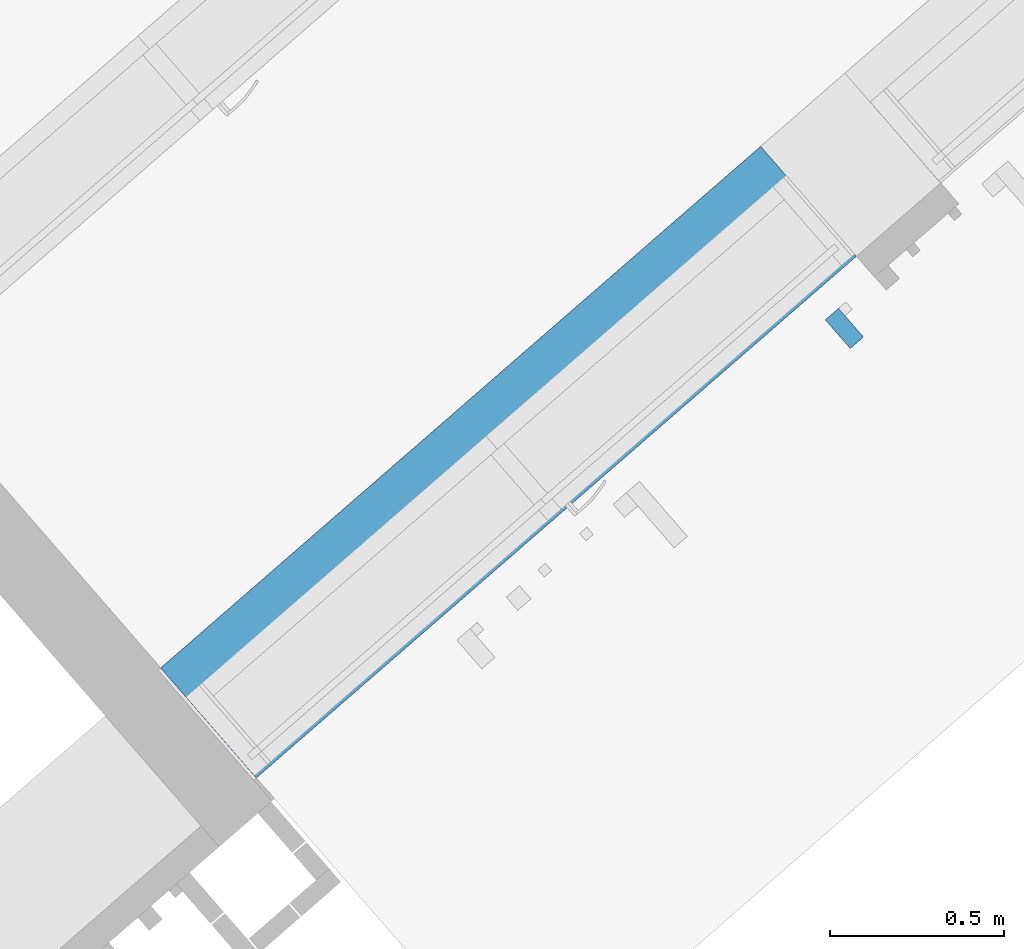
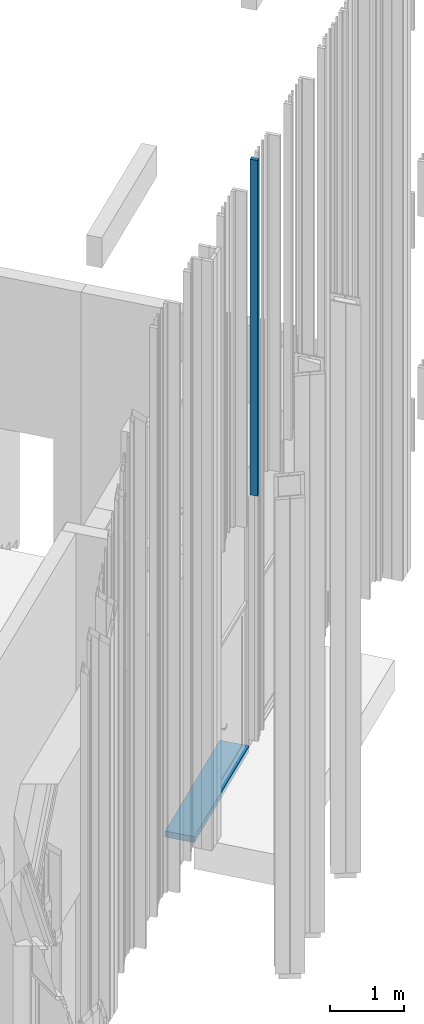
# One storey, part 204 of 390: 2 walls.
"""IFC2X3 building model written with IfcOpenShell, lengths in millimetres."""

from ifc_helpers import new_model, entity, si_unit, converted_unit, derived_unit, money_unit, direction, frame, origin_with_axes, place, context, subcontext, project, spatial, faceted_brep, material, material_list, type_object, element, save


model = new_model("IFC2X3")

# Units and contexts
model_context = context("Model", 3, precision=1e-05, world=origin_with_axes(), true_north=direction((0.0, 1.0)))
body_context = subcontext(model_context, "Body", "Model", "MODEL_VIEW")
ifc_project = project(units=[si_unit("LENGTHUNIT", "METRE", prefix="MILLI"), si_unit("AREAUNIT", "SQUARE_METRE"), si_unit("VOLUMEUNIT", "CUBIC_METRE"), converted_unit("PLANEANGLEUNIT", "DEGREE", entity("IfcPlaneAngleMeasure", 0.0174532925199), si_unit("PLANEANGLEUNIT", "RADIAN"), dimensions=[0, 0, 0, 0, 0, 0, 0]), si_unit("SOLIDANGLEUNIT", "STERADIAN"), money_unit("EUR"), converted_unit("TIMEUNIT", "Year", entity("IfcTimeMeasure", 31556926.0), si_unit("TIMEUNIT", "SECOND"), dimensions=[0, 0, 1, 0, 0, 0, 0]), si_unit("MASSUNIT", "GRAM", prefix="KILO"), si_unit("THERMODYNAMICTEMPERATUREUNIT", "DEGREE_CELSIUS"), si_unit("LUMINOUSINTENSITYUNIT", "LUMEN"), si_unit("ENERGYUNIT", "JOULE", prefix="MEGA"), derived_unit("THERMALCONDUCTANCEUNIT", [(si_unit("POWERUNIT", "WATT"), 1), (si_unit("LENGTHUNIT", "METRE"), -1), (si_unit("THERMODYNAMICTEMPERATUREUNIT", "KELVIN"), -1)]), derived_unit("SPECIFICHEATCAPACITYUNIT", [(si_unit("ENERGYUNIT", "JOULE"), 1), (si_unit("MASSUNIT", "GRAM", prefix="KILO"), -1), (si_unit("THERMODYNAMICTEMPERATUREUNIT", "KELVIN"), -1)]), derived_unit("MASSDENSITYUNIT", [(si_unit("MASSUNIT", "GRAM", prefix="KILO"), 1), (si_unit("VOLUMEUNIT", "CUBIC_METRE"), -1)])], contexts=[model_context])

# Site, building, storey
site_placement = place(None, origin_with_axes())
site = spatial("IfcSite", under=ifc_project, at=site_placement, Name="Site", CompositionType="ELEMENT")
building_placement = place(site_placement, origin_with_axes())
building = spatial("IfcBuilding", under=site, at=building_placement, Name="Building", CompositionType="ELEMENT")
storey_placement = place(building_placement, origin_with_axes())
storey = spatial("IfcBuildingStorey", under=building, at=storey_placement, Name="1 korrus", CompositionType="ELEMENT", Elevation=0.0)

# Walls
ifc_material_1 = material(Name="Plaat - Sein")
ifc_material_2 = material(Name="Soojustus - Plastik Kõva")
ifc_material_3 = material(Name="Raudbetoon - Konstruktsioon")
ifc_material_4 = material(Name="Krohv - Lubjakivi")
ifc_material_list = material_list([ifc_material_1, ifc_material_2, ifc_material_2, ifc_material_3, ifc_material_4])
wall_type_1 = type_object("IfcWallType", Name="VS-03", PredefinedType="NOTDEFINED")
wall_1_placement = place(storey_placement, frame((146275.923379, 72477.9867006, -100.0), z_axis=(0.0, 0.0, 1.0), x_axis=(-0.754709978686, -0.656058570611, 0.0)))
element("IfcWall", 1, at=wall_1_placement, inside=storey, type_object=wall_type_1, material=ifc_material_list, Name="VS-05", context=body_context, shape_type="Brep", body=[
    faceted_brep([(2279.99975336, 418.0, 0.0), (2279.99975336, 410.0, 0.0), (0.0, 410.0, 0.0), (0.0, 418.0, 0.0), (2279.99975336, 418.0, 100.0), (2279.99975336, 410.0, 100.0), (0.0, 410.0, 100.0), (0.0, 418.0, 100.0)], [[[0, 1, 2, 3]], [[0, 4, 5, 1]], [[1, 5, 6, 2]], [[3, 2, 6, 7]], [[4, 0, 3, 7]], [[5, 4, 7, 6]]]),
    faceted_brep([(2279.99975336, 410.0, 0.0), (2279.99975336, 360.0, 0.0), (0.0, 360.0, 0.0), (0.0, 410.0, 0.0), (2279.99975336, 410.0, 100.0), (2279.99975336, 360.0, 100.0), (0.0, 360.0, 100.0), (0.0, 410.0, 100.0)], [[[0, 1, 2, 3]], [[0, 4, 5, 1]], [[1, 5, 6, 2]], [[3, 2, 6, 7]], [[4, 0, 3, 7]], [[5, 4, 7, 6]]]),
    faceted_brep([(2279.99975336, 360.0, 0.0), (2279.99975336, 210.0, 0.0), (0.0, 210.0, 0.0), (0.0, 360.0, 0.0), (2279.99975336, 360.0, 100.0), (2279.99975336, 210.0, 100.0), (0.0, 210.0, 100.0), (0.0, 360.0, 100.0)], [[[0, 1, 2, 3]], [[0, 4, 5, 1]], [[1, 5, 6, 2]], [[3, 2, 6, 7]], [[4, 0, 3, 7]], [[5, 4, 7, 6]]]),
    faceted_brep([(2279.99975336, 210.0, 0.0), (2279.99975336, 10.0, 0.0), (0.0, 9.99999999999, 0.0), (0.0, 210.0, 0.0), (2279.99975336, 210.0, 100.0), (2279.99975336, 10.0, 100.0), (0.0, 9.99999999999, 100.0), (0.0, 210.0, 100.0)], [[[0, 1, 2, 3]], [[0, 4, 5, 1]], [[1, 5, 6, 2]], [[3, 2, 6, 7]], [[4, 0, 3, 7]], [[5, 4, 7, 6]]]),
    faceted_brep([(2279.99975336, 10.0, 0.0), (2279.99975336, 0.0, 0.0), (0.0, 0.0, 0.0), (0.0, 9.99999999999, 0.0), (2279.99975336, 10.0, 100.0), (2279.99975336, 0.0, 100.0), (0.0, 0.0, 100.0), (0.0, 9.99999999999, 100.0)], [[[0, 1, 2, 3]], [[0, 4, 5, 1]], [[1, 5, 6, 2]], [[3, 2, 6, 7]], [[4, 0, 3, 7]], [[5, 4, 7, 6]]]),
])
ifc_material_5 = material(Name="Site specified")
wall_type_2 = type_object("IfcWallType", Name="Puitfassaadi ribistik", PredefinedType="NOTDEFINED")
wall_2_placement = place(storey_placement, frame((146515.895615, 71955.853707, 4300.0), z_axis=(0.0, 0.0, 1.0), x_axis=(-0.754709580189, -0.65605902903, 0.0)))
element("IfcWall", 2, at=wall_2_placement, inside=storey, type_object=wall_type_2, material=ifc_material_5, Name="Site specified", context=body_context, shape_type="Brep", body=[
    faceted_brep([(-25.0, -54.5, 5565.0), (-25.0, -54.5, 0.0), (25.0, -54.5, 0.0), (25.0, -54.5, 5565.0), (-25.0, 54.5, 5565.0), (-25.0, 54.5, 0.0), (25.0, 54.5, 0.0), (25.0, 54.5, 5565.0)], [[[0, 1, 2, 3]], [[4, 5, 1, 0]], [[2, 1, 5, 6]], [[3, 2, 6, 7]], [[4, 0, 3, 7]], [[7, 6, 5, 4]]]),
])

save(model, "model.ifc")
